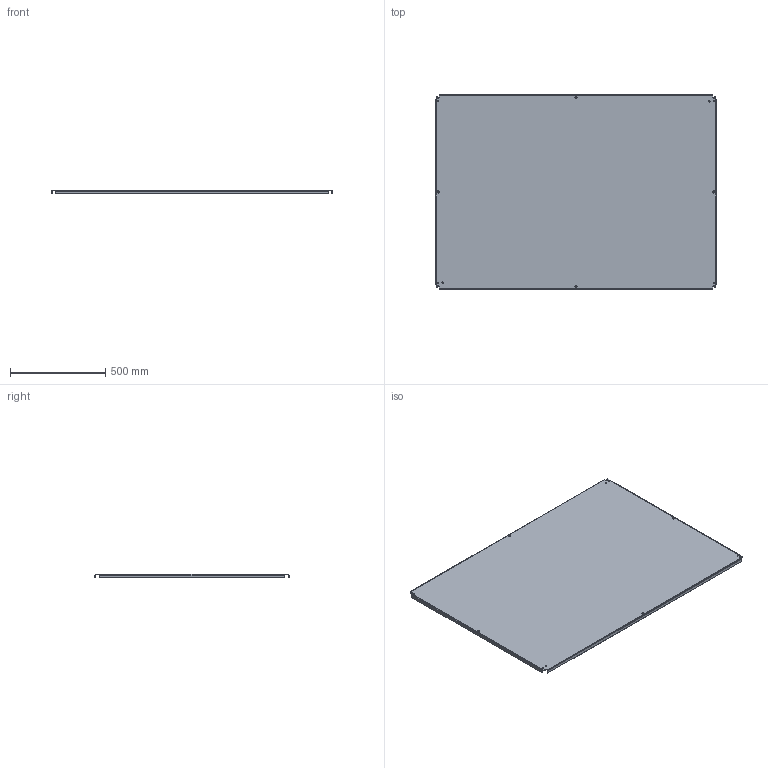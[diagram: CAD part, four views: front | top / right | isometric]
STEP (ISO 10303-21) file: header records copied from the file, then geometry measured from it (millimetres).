
FILE_DESCRIPTION (( 'STEP AP203' ), '1' );
FILE_NAME ('29676.step', '2015-03-30T08:03:06', ( '' ), ( '' ), 'SwSTEP 2.0', 'SolidWorks 2010', '' );
FILE_SCHEMA (( 'CONFIG_CONTROL_DESIGN' ));
Length unit declared in the file: inch
Products named in the file (2): 89117347; 29676
Assembly tree (1 placements, depth 2):
  29676
    89117347
Bounding box: 1478.28 x 1021.08 x 19.05 mm (x, y, z)
Volume: 3895560.8 mm3; surface area: 3175606.5 mm2
Topology: 1 solids, 1 shells, 160 faces, 396 edges, 244 vertices
Faces by surface type: plane 132, cylinder 28
Entity records: 4852 total; most frequent: CARTESIAN_POINT 804, ORIENTED_EDGE 792, DIRECTION 784, EDGE_CURVE 396, LINE 336, VECTOR 336, VERTEX_POINT 244, AXIS2_PLACEMENT_3D 224
